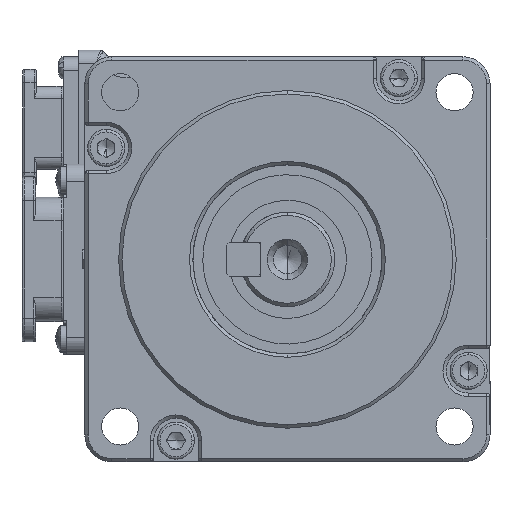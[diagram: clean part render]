
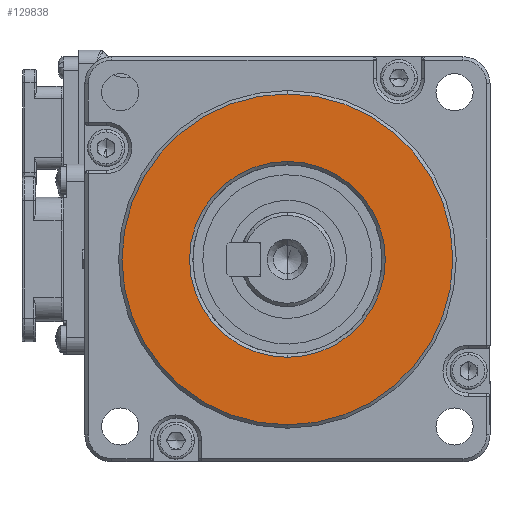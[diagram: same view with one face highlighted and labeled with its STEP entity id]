
A CAD part, left-side view. The second image highlights one B-rep face of the part: STEP entity #129838.
In plain terms, the highlighted planar face has unit normal (-1, 0, 0).
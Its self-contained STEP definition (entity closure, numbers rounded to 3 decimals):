
#3314 = PLANE ( 'NONE',  #42010 ) ;
#5262 = CIRCLE ( 'NONE', #78636, 14.5 ) ;
#7657 = DIRECTION ( 'NONE',  ( -1., 0., 0. ) ) ;
#8022 = CARTESIAN_POINT ( 'NONE',  ( -54.016, -2.445, 108.385 ) ) ;
#10768 = DIRECTION ( 'NONE',  ( 0., 0., -1. ) ) ;
#13581 = EDGE_CURVE ( 'NONE', #41269, #96265, #79720, .T. ) ;
#15573 = CARTESIAN_POINT ( 'NONE',  ( -54.016, -2.445, 93.885 ) ) ;
#27918 = EDGE_CURVE ( 'NONE', #130666, #93104, #57751, .T. ) ;
#32029 = CARTESIAN_POINT ( 'NONE',  ( -54.016, -2.445, 108.385 ) ) ;
#41269 = VERTEX_POINT ( 'NONE', #150866 ) ;
#42010 = AXIS2_PLACEMENT_3D ( 'NONE', #82814, #116909, #94691 ) ;
#51343 = CARTESIAN_POINT ( 'NONE',  ( -54.016, -2.445, 132.885 ) ) ;
#52622 = DIRECTION ( 'NONE',  ( 0., 0., -1. ) ) ;
#53831 = AXIS2_PLACEMENT_3D ( 'NONE', #8022, #78291, #147948 ) ;
#57751 = CIRCLE ( 'NONE', #53831, 24.5 ) ;
#59506 = EDGE_CURVE ( 'NONE', #96265, #41269, #5262, .T. ) ;
#78291 = DIRECTION ( 'NONE',  ( -1., 0., 0. ) ) ;
#78636 = AXIS2_PLACEMENT_3D ( 'NONE', #124377, #123328, #52622 ) ;
#79720 = CIRCLE ( 'NONE', #150458, 14.5 ) ;
#79806 = FACE_OUTER_BOUND ( 'NONE', #91016, .T. ) ;
#82486 = CARTESIAN_POINT ( 'NONE',  ( -54.016, -2.445, 108.385 ) ) ;
#82814 = CARTESIAN_POINT ( 'NONE',  ( -54.016, -2.445, 108.385 ) ) ;
#88809 = CARTESIAN_POINT ( 'NONE',  ( -54.016, -2.445, 83.885 ) ) ;
#91016 = EDGE_LOOP ( 'NONE', ( #137873, #108276 ) ) ;
#93104 = VERTEX_POINT ( 'NONE', #51343 ) ;
#94691 = DIRECTION ( 'NONE',  ( 0., 0., -1. ) ) ;
#96265 = VERTEX_POINT ( 'NONE', #15573 ) ;
#99087 = CIRCLE ( 'NONE', #139717, 24.5 ) ;
#106711 = EDGE_CURVE ( 'NONE', #93104, #130666, #99087, .T. ) ;
#106727 = DIRECTION ( 'NONE',  ( 0., 0., -1. ) ) ;
#107762 = ORIENTED_EDGE ( 'NONE', *, *, #13581, .T. ) ;
#108276 = ORIENTED_EDGE ( 'NONE', *, *, #106711, .T. ) ;
#109272 = FACE_BOUND ( 'NONE', #123163, .T. ) ;
#116909 = DIRECTION ( 'NONE',  ( 1., 0., 0. ) ) ;
#119625 = ORIENTED_EDGE ( 'NONE', *, *, #59506, .T. ) ;
#123163 = EDGE_LOOP ( 'NONE', ( #107762, #119625 ) ) ;
#123328 = DIRECTION ( 'NONE',  ( 1., 0., 0. ) ) ;
#124377 = CARTESIAN_POINT ( 'NONE',  ( -54.016, -2.445, 108.385 ) ) ;
#129838 = ADVANCED_FACE ( 'NONE', ( #109272, #79806 ), #3314, .F. ) ;
#130666 = VERTEX_POINT ( 'NONE', #88809 ) ;
#137873 = ORIENTED_EDGE ( 'NONE', *, *, #27918, .T. ) ;
#139717 = AXIS2_PLACEMENT_3D ( 'NONE', #32029, #7657, #10768 ) ;
#147948 = DIRECTION ( 'NONE',  ( 0., 0., -1. ) ) ;
#150458 = AXIS2_PLACEMENT_3D ( 'NONE', #82486, #152139, #106727 ) ;
#150866 = CARTESIAN_POINT ( 'NONE',  ( -54.016, -2.445, 122.885 ) ) ;
#152139 = DIRECTION ( 'NONE',  ( 1., 0., 0. ) ) ;
